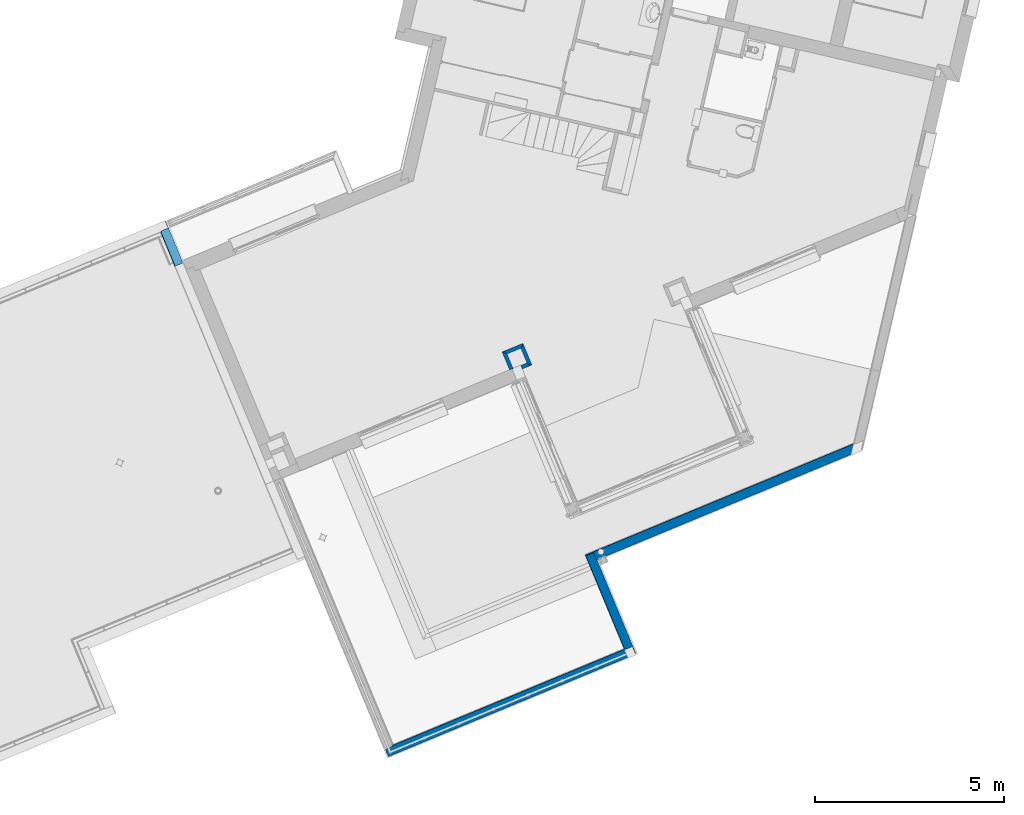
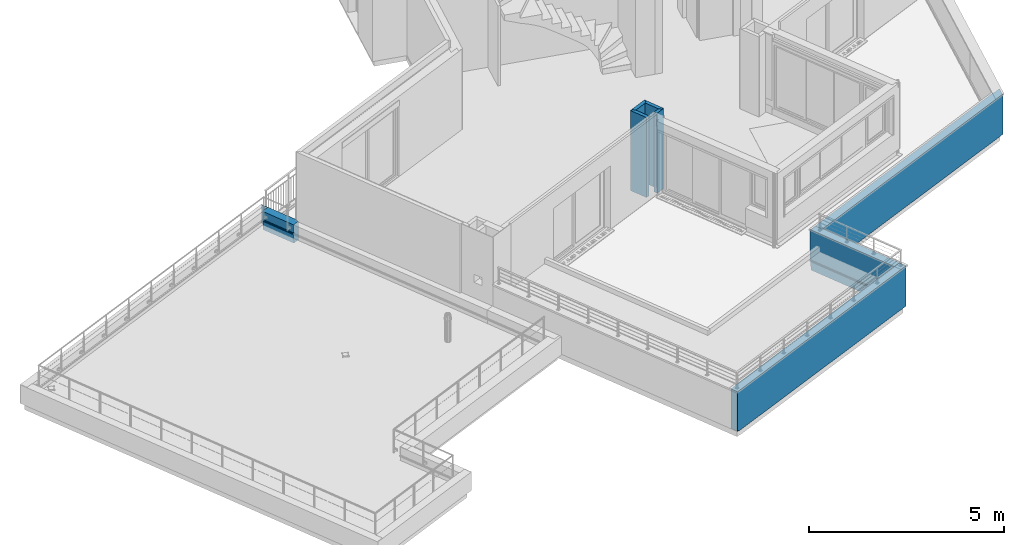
# One storey, part 22 of 62: 8 walls.
"""IFC2X3 building model written with IfcOpenShell, lengths in metres."""

from ifc_helpers import new_model, entity, si_unit, converted_unit, derived_unit, money_unit, direction, frame, origin_with_axes, place, context, subcontext, project, spatial, faceted_brep, material, material_list, type_object, element, save


model = new_model("IFC2X3")

# Units and contexts
model_context = context("Model", 3, precision=1e-05, world=origin_with_axes(), true_north=direction((0.0, 1.0)))
body_context = subcontext(model_context, "Body", "Model", "MODEL_VIEW")
ifc_project = project(units=[si_unit("LENGTHUNIT", "METRE"), si_unit("AREAUNIT", "SQUARE_METRE"), si_unit("VOLUMEUNIT", "CUBIC_METRE"), converted_unit("PLANEANGLEUNIT", "DEGREE", entity("IfcPlaneAngleMeasure", 0.0174532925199), si_unit("PLANEANGLEUNIT", "RADIAN"), dimensions=[0, 0, 0, 0, 0, 0, 0]), si_unit("SOLIDANGLEUNIT", "STERADIAN"), money_unit("EUR"), converted_unit("TIMEUNIT", "Year", entity("IfcTimeMeasure", 31556926.0), si_unit("TIMEUNIT", "SECOND"), dimensions=[0, 0, 1, 0, 0, 0, 0]), si_unit("MASSUNIT", "GRAM", prefix="KILO"), si_unit("THERMODYNAMICTEMPERATUREUNIT", "DEGREE_CELSIUS"), si_unit("LUMINOUSINTENSITYUNIT", "LUMEN"), si_unit("ENERGYUNIT", "JOULE", prefix="MEGA"), derived_unit("THERMALCONDUCTANCEUNIT", [(si_unit("POWERUNIT", "WATT"), 1), (si_unit("LENGTHUNIT", "METRE"), -1), (si_unit("THERMODYNAMICTEMPERATUREUNIT", "KELVIN"), -1)]), derived_unit("SPECIFICHEATCAPACITYUNIT", [(si_unit("ENERGYUNIT", "JOULE"), 1), (si_unit("MASSUNIT", "GRAM", prefix="KILO"), -1), (si_unit("THERMODYNAMICTEMPERATUREUNIT", "KELVIN"), -1)]), derived_unit("MASSDENSITYUNIT", [(si_unit("MASSUNIT", "GRAM", prefix="KILO"), 1), (si_unit("VOLUMEUNIT", "CUBIC_METRE"), -1)])], contexts=[model_context])

# Site, building, storey
site_placement = place(None, origin_with_axes())
site = spatial("IfcSite", under=ifc_project, at=site_placement, Name="Site", CompositionType="ELEMENT")
building_placement = place(site_placement, origin_with_axes())
building = spatial("IfcBuilding", under=site, at=building_placement, Name="Bâtiment", CompositionType="ELEMENT")
storey_placement = place(building_placement, frame((0.0, 0.0, 8.16), z_axis=(0.0, 0.0, 1.0), x_axis=(1.0, 0.0, 0.0)))
storey = spatial("IfcBuildingStorey", under=building, at=storey_placement, Name="R+3", CompositionType="ELEMENT", Elevation=8.16)

# Walls
ifc_material_1 = material(Name="Finition int - Plaque de plâtre")
ifc_material_2 = material(Name="Isolation - Laine de roche")
ifc_material_list_1 = material_list([ifc_material_1, ifc_material_1, ifc_material_2, ifc_material_1, ifc_material_1])
wall_type_1 = type_object("IfcWallType", Name="3 - Cloison Gaine Technique 98mm 100", PredefinedType="USERDEFINED")
wall_1_placement = place(storey_placement, frame((-16.5839521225, -17.3007671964, 0.0), z_axis=(0.0, 0.0, 1.0), x_axis=(0.383112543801, -0.92370167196, 0.0)))
element("IfcWall", 1, at=wall_1_placement, inside=storey, type_object=wall_type_1, material=ifc_material_list_1, Name="Cloison 98 isolée", ObjectType="PARTITIONING", context=body_context, shape_type="Brep", body=[
    faceted_brep([(0.619999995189, -0.013, 2.5), (0.619999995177, 0.0, 2.5), (0.0129999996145, 0.0, 2.5), (0.0129999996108, -0.013, 2.5), (0.619999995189, -0.013, 0.0), (0.619999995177, 0.0, 0.0), (0.0129999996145, 0.0, 0.0), (0.0129999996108, -0.013, 0.0)], [[[0, 1, 2, 3]], [[1, 0, 4, 5]], [[1, 5, 6, 2]], [[7, 3, 2, 6]], [[4, 0, 3, 7]], [[5, 4, 7, 6]]]),
    faceted_brep([(0.606999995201, -0.026, 2.5), (0.606999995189, -0.013, 2.5), (0.0259999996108, -0.013, 2.5), (0.0259999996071, -0.026, 2.5), (0.606999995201, -0.026, 0.0), (0.606999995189, -0.013, 0.0), (0.0259999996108, -0.013, 0.0), (0.0259999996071, -0.026, 0.0)], [[[0, 1, 2, 3]], [[1, 0, 4, 5]], [[1, 5, 6, 2]], [[7, 3, 2, 6]], [[4, 0, 3, 7]], [[5, 4, 7, 6]]]),
    faceted_brep([(0.593999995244, -0.074, 2.5), (0.593999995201, -0.026, 2.5), (0.0739999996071, -0.026, 2.5), (0.0739999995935, -0.074, 2.5), (0.593999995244, -0.074, 0.0), (0.593999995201, -0.026, 0.0), (0.0739999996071, -0.026, 0.0), (0.0739999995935, -0.074, 0.0)], [[[0, 1, 2, 3]], [[1, 0, 4, 5]], [[1, 5, 6, 2]], [[7, 3, 2, 6]], [[4, 0, 3, 7]], [[5, 4, 7, 6]]]),
    faceted_brep([(0.545999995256, -0.087, 2.5), (0.545999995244, -0.074, 2.5), (0.0869999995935, -0.074, 2.5), (0.0869999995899, -0.087, 2.5), (0.545999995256, -0.087, 0.0), (0.545999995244, -0.074, 0.0), (0.0869999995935, -0.074, 0.0), (0.0869999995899, -0.087, 0.0)], [[[0, 1, 2, 3]], [[1, 0, 4, 5]], [[1, 5, 6, 2]], [[7, 3, 2, 6]], [[4, 0, 3, 7]], [[5, 4, 7, 6]]]),
    faceted_brep([(0.532999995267, -0.1, 2.5), (0.532999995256, -0.087, 2.5), (0.0999999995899, -0.087, 2.5), (0.0999999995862, -0.1, 2.5), (0.532999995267, -0.1, 0.0), (0.532999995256, -0.087, 0.0), (0.0999999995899, -0.087, 0.0), (0.0999999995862, -0.1, 0.0)], [[[0, 1, 2, 3]], [[1, 0, 4, 5]], [[1, 5, 6, 2]], [[7, 3, 2, 6]], [[4, 0, 3, 7]], [[5, 4, 7, 6]]]),
])
wall_2_placement = place(storey_placement, frame((-17.1344783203, -17.5291022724, 0.0), z_axis=(0.0, 0.0, 1.0), x_axis=(0.923701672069, 0.38311254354, 0.0)))
element("IfcWall", 2, at=wall_2_placement, inside=storey, type_object=wall_type_1, material=ifc_material_list_1, Name="Cloison 98 isolée", ObjectType="PARTITIONING", context=body_context, shape_type="Brep", body=[
    faceted_brep([(0.596000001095, -0.013, 2.5), (0.596000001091, 0.0, 2.5), (0.013, 0.0, 2.5), (0.0130000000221, -0.013, 2.5), (0.596000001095, -0.013, 0.0), (0.596000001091, 0.0, 0.0), (0.013, 0.0, 0.0), (0.0130000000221, -0.013, 0.0)], [[[0, 1, 2, 3]], [[1, 0, 4, 5]], [[1, 5, 6, 2]], [[7, 3, 2, 6]], [[4, 0, 3, 7]], [[5, 4, 7, 6]]]),
    faceted_brep([(0.583000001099, -0.026, 2.5), (0.583000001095, -0.013, 2.5), (0.0260000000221, -0.013, 2.5), (0.0260000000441, -0.026, 2.5), (0.583000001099, -0.026, 0.0), (0.583000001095, -0.013, 0.0), (0.0260000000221, -0.013, 0.0), (0.0260000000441, -0.026, 0.0)], [[[0, 1, 2, 3]], [[1, 0, 4, 5]], [[1, 5, 6, 2]], [[7, 3, 2, 6]], [[4, 0, 3, 7]], [[5, 4, 7, 6]]]),
    faceted_brep([(0.570000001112, -0.074, 2.5), (0.570000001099, -0.026, 2.5), (0.0740000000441, -0.026, 2.5), (0.0740000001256, -0.074, 2.5), (0.570000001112, -0.074, 0.0), (0.570000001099, -0.026, 0.0), (0.0740000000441, -0.026, 0.0), (0.0740000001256, -0.074, 0.0)], [[[0, 1, 2, 3]], [[1, 0, 4, 5]], [[1, 5, 6, 2]], [[7, 3, 2, 6]], [[4, 0, 3, 7]], [[5, 4, 7, 6]]]),
    faceted_brep([(0.522000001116, -0.087, 2.5), (0.522000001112, -0.074, 2.5), (0.0870000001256, -0.074, 2.5), (0.0870000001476, -0.087, 2.5), (0.522000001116, -0.087, 0.0), (0.522000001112, -0.074, 0.0), (0.0870000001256, -0.074, 0.0), (0.0870000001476, -0.087, 0.0)], [[[0, 1, 2, 3]], [[1, 0, 4, 5]], [[1, 5, 6, 2]], [[7, 3, 2, 6]], [[4, 0, 3, 7]], [[5, 4, 7, 6]]]),
    faceted_brep([(0.50900000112, -0.1, 2.5), (0.509000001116, -0.087, 2.5), (0.100000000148, -0.087, 2.5), (0.10000000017, -0.1, 2.5), (0.50900000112, -0.1, 0.0), (0.509000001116, -0.087, 0.0), (0.100000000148, -0.087, 0.0), (0.10000000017, -0.1, 0.0)], [[[0, 1, 2, 3]], [[1, 0, 4, 5]], [[1, 5, 6, 2]], [[7, 3, 2, 6]], [[4, 0, 3, 7]], [[5, 4, 7, 6]]]),
])
wall_3_placement = place(storey_placement, frame((-16.9352597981, -18.0094271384, 0.0), z_axis=(0.0, 0.0, 1.0), x_axis=(-0.383112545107, 0.923701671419, 0.0)))
element("IfcWall", 3, at=wall_3_placement, inside=storey, type_object=wall_type_1, material=ifc_material_list_1, Name="Cloison 98 isolée", ObjectType="PARTITIONING", context=body_context, shape_type="Brep", body=[
    faceted_brep([(0.519999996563, -0.013, 2.5), (0.519999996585, 0.0, 2.5), (0.0, 0.0, 2.5), (0.0, -0.013, 2.5), (0.519999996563, -0.013, 0.0), (0.519999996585, 0.0, 0.0), (0.0, 0.0, 0.0), (0.0, -0.013, 0.0)], [[[0, 1, 2, 3]], [[1, 0, 4, 5]], [[1, 5, 6, 2]], [[7, 3, 2, 6]], [[4, 0, 3, 7]], [[5, 4, 7, 6]]]),
    faceted_brep([(0.506999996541, -0.026, 2.5), (0.506999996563, -0.013, 2.5), (0.0, -0.013, 2.5), (0.0, -0.026, 2.5), (0.506999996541, -0.026, 0.0), (0.506999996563, -0.013, 0.0), (0.0, -0.013, 0.0), (0.0, -0.026, 0.0)], [[[0, 1, 2, 3]], [[1, 0, 4, 5]], [[1, 5, 6, 2]], [[7, 3, 2, 6]], [[4, 0, 3, 7]], [[5, 4, 7, 6]]]),
    faceted_brep([(0.493999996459, -0.074, 2.5), (0.493999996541, -0.026, 2.5), (0.0, -0.026, 2.5), (0.0, -0.074, 2.5), (0.493999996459, -0.074, 0.0), (0.493999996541, -0.026, 0.0), (0.0, -0.026, 0.0), (0.0, -0.074, 0.0)], [[[0, 1, 2, 3]], [[1, 0, 4, 5]], [[1, 5, 6, 2]], [[7, 3, 2, 6]], [[4, 0, 3, 7]], [[5, 4, 7, 6]]]),
    faceted_brep([(0.445999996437, -0.087, 2.5), (0.445999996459, -0.074, 2.5), (0.0, -0.074, 2.5), (0.0, -0.087, 2.5), (0.445999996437, -0.087, 0.0), (0.445999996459, -0.074, 0.0), (0.0, -0.074, 0.0), (0.0, -0.087, 0.0)], [[[0, 1, 2, 3]], [[1, 0, 4, 5]], [[1, 5, 6, 2]], [[7, 3, 2, 6]], [[4, 0, 3, 7]], [[5, 4, 7, 6]]]),
    faceted_brep([(0.432999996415, -0.1, 2.5), (0.432999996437, -0.087, 2.5), (0.0, -0.087, 2.5), (0.0, -0.1, 2.5), (0.432999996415, -0.1, 0.0), (0.432999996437, -0.087, 0.0), (0.0, -0.087, 0.0), (0.0, -0.1, 0.0)], [[[0, 1, 2, 3]], [[1, 0, 4, 5]], [[1, 5, 6, 2]], [[7, 3, 2, 6]], [[4, 0, 3, 7]], [[5, 4, 7, 6]]]),
])
wall_4_placement = place(storey_placement, frame((-16.638894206, -17.8865071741, 0.0), z_axis=(0.0, 0.0, 1.0), x_axis=(0.923701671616, 0.383112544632, 0.0)))
element("IfcWall", 4, at=wall_4_placement, inside=storey, type_object=wall_type_1, material=ifc_material_list_1, Name="Cloison 98 isolée", ObjectType="PARTITIONING", context=body_context, shape_type="Brep", body=[
    faceted_brep([(0.175154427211, -0.013, 2.5), (0.175154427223, 0.0, 2.5), (0.0, 0.0, 2.5), (0.0, -0.013, 2.5), (0.175154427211, -0.013, 0.0), (0.175154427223, 0.0, 0.0), (0.0, 0.0, 0.0), (0.0, -0.013, 0.0)], [[[0, 1, 2, 3]], [[1, 0, 4, 5]], [[1, 5, 6, 2]], [[7, 3, 2, 6]], [[4, 0, 3, 7]], [[5, 4, 7, 6]]]),
    faceted_brep([(0.1881544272, -0.026, 2.5), (0.188154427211, -0.013, 2.5), (0.0, -0.013, 2.5), (0.0, -0.026, 2.5), (0.1881544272, -0.026, 0.0), (0.188154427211, -0.013, 0.0), (0.0, -0.013, 0.0), (0.0, -0.026, 0.0)], [[[0, 1, 2, 3]], [[1, 0, 4, 5]], [[1, 5, 6, 2]], [[7, 3, 2, 6]], [[4, 0, 3, 7]], [[5, 4, 7, 6]]]),
    faceted_brep([(0.201154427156, -0.074, 2.5), (0.2011544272, -0.026, 2.5), (0.0, -0.026, 2.5), (0.0, -0.074, 2.5), (0.201154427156, -0.074, 0.0), (0.2011544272, -0.026, 0.0), (0.0, -0.026, 0.0), (0.0, -0.074, 0.0)], [[[0, 1, 2, 3]], [[1, 0, 4, 5]], [[1, 5, 6, 2]], [[7, 3, 2, 6]], [[4, 0, 3, 7]], [[5, 4, 7, 6]]]),
    faceted_brep([(0.249154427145, -0.087, 2.5), (0.249154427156, -0.074, 2.5), (0.0, -0.074, 2.5), (0.0, -0.087, 2.5), (0.249154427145, -0.087, 0.0), (0.249154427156, -0.074, 0.0), (0.0, -0.074, 0.0), (0.0, -0.087, 0.0)], [[[0, 1, 2, 3]], [[1, 0, 4, 5]], [[1, 5, 6, 2]], [[7, 3, 2, 6]], [[4, 0, 3, 7]], [[5, 4, 7, 6]]]),
    faceted_brep([(0.262154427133, -0.1, 2.5), (0.262154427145, -0.087, 2.5), (0.0, -0.087, 2.5), (0.0, -0.1, 2.5), (0.262154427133, -0.1, 0.0), (0.262154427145, -0.087, 0.0), (0.0, -0.087, 0.0), (0.0, -0.1, 0.0)], [[[0, 1, 2, 3]], [[1, 0, 4, 5]], [[1, 5, 6, 2]], [[7, 3, 2, 6]], [[4, 0, 3, 7]], [[5, 4, 7, 6]]]),
])
ifc_material_3 = material(Name="Finition ext - Crépis")
ifc_material_4 = material(Name="Béton")
ifc_material_5 = material(Name="Etanchéité - Bitume")
ifc_material_6 = material(Name="Métal - Aluminium")
ifc_material_list_2 = material_list([ifc_material_3, ifc_material_4, ifc_material_5, ifc_material_3, ifc_material_6])
wall_type_2 = type_object("IfcWallType", Name="Acrotère pour plancher 21 isolée 242 x 580", PredefinedType="USERDEFINED")
wall_5_placement = place(storey_placement, frame((-26.0315154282, -14.0526858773, 0.0), z_axis=(0.0, 0.0, 1.0), x_axis=(0.383112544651, -0.923701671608, 0.0)))
element("IfcWall", 5, at=wall_5_placement, inside=storey, type_object=wall_type_2, material=ifc_material_list_2, Name="Muret béton 20cm", ObjectType="PARAPET", context=body_context, shape_type="Brep", body=[
    faceted_brep([(0.01499999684, 0.0, 0.580000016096), (1.15000002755, 0.0, 0.580000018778), (1.15000002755, 0.0, 0.0), (0.01499999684, 0.0, 0.0), (0.0149999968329, -0.0149999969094, 0.580000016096), (1.15000002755, -0.0149999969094, 0.580000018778), (1.15000002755, -0.0149999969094, 0.0), (0.0149999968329, -0.0149999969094, 0.0)], [[[0, 1, 2, 3]], [[1, 0, 4, 5]], [[2, 1, 5, 6]], [[6, 7, 3, 2]], [[7, 4, 0, 3]], [[5, 4, 7, 6]]]),
    faceted_brep([(0.215000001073, -0.015, 0.580000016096), (1.21500002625, -0.015, 0.580000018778), (1.21500002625, -0.015, 0.0), (0.215000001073, -0.015, 0.0), (0.215000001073, -0.015, 0.0999999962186), (0.215000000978, -0.215000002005, 0.580000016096), (1.21500002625, -0.215000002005, 0.580000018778), (1.21500002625, -0.215000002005, 0.0999999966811), (1.21500002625, -0.215000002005, 0.0), (1.21500002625, -0.215000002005, 0.318976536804), (1.21500002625, -0.215000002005, 0.309999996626), (0.215000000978, -0.215000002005, 0.0), (0.215000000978, -0.215000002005, 0.0999999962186), (0.215000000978, -0.215000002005, 0.310000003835), (0.215000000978, -0.215000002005, 0.318976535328)], [[[0, 1, 2, 3, 4]], [[1, 0, 5, 6]], [[7, 8, 2, 1, 6, 9, 10]], [[8, 11, 3, 2]], [[11, 12, 4, 3]], [[12, 13, 14, 5, 0, 4]], [[6, 5, 14, 9]], [[7, 12, 11, 8]], [[9, 14, 13, 10]], [[10, 13, 12, 7]]]),
    faceted_brep([(1.21500002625, -0.224999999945, 0.11), (1.21500002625, -0.214999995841, 0.11), (1.21500002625, -0.215000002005, 0.309999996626), (1.21500002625, -0.224999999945, 0.309999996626), (0.224999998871, -0.214999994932, 0.11), (0.224999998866, -0.224999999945, 0.11), (0.224999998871, -0.215000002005, 0.310000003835), (0.224999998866, -0.224999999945, 0.310000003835)], [[[0, 1, 2, 3]], [[4, 1, 0, 5]], [[1, 4, 6, 2]], [[2, 6, 7, 3]], [[5, 0, 3, 7]], [[4, 5, 7, 6]]]),
    faceted_brep([(0.229999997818, -0.215000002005, 0.357041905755), (0.229999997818, -0.215000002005, 0.580000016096), (1.21500002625, -0.215000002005, 0.580000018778), (1.21500002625, -0.215000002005, 0.357041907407), (0.229999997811, -0.229999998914, 0.580000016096), (0.229999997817, -0.216045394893, 0.357041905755), (0.229999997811, -0.229999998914, 0.357041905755), (1.21500002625, -0.229999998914, 0.580000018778), (1.21500002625, -0.229999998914, 0.357041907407), (1.21500002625, -0.216045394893, 0.357041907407)], [[[0, 1, 2, 3]], [[4, 1, 0, 5, 6]], [[1, 4, 7, 2]], [[3, 2, 7, 8, 9]], [[5, 0, 3, 9]], [[6, 5, 9, 8]], [[4, 6, 8, 7]]]),
    faceted_brep([(0.219574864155, -0.21957486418, 0.318976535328), (0.219574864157, -0.215, 0.318976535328), (0.242484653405, -0.237655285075, 0.312179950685), (0.242484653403, -0.242484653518, 0.312179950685), (0.216045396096, -0.215, 0.320023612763), (0.216045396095, -0.216045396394, 0.320023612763), (0.242484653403, -0.241250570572, 0.311101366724), (1.21500002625, -0.215, 0.318976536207), (1.21500002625, -0.241250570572, 0.311101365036), (0.242484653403, -0.241250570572, 0.310000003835), (0.242484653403, -0.242484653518, 0.310000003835), (1.21500002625, -0.242484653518, 0.312179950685), (1.21500002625, -0.216045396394, 0.320023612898), (0.216045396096, -0.215, 0.357041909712), (1.21500002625, -0.215, 0.357041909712), (0.216045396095, -0.216045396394, 0.357041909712), (1.21500002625, -0.216045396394, 0.357041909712), (1.21500002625, -0.242484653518, 0.282882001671), (1.21500002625, -0.241250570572, 0.282882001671), (0.242484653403, -0.241250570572, 0.282882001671), (0.242484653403, -0.242484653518, 0.282882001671)], [[[0, 1, 2, 3]], [[4, 1, 0, 5]], [[6, 2, 1, 7, 8]], [[2, 6, 9, 10, 3]], [[5, 0, 3, 11, 12]], [[4, 13, 14, 7, 1]], [[15, 13, 4, 5]], [[16, 12, 11, 17, 18, 8, 7, 14]], [[9, 6, 8, 18, 19]], [[10, 9, 19, 20]], [[3, 10, 20, 17, 11]], [[15, 5, 12, 16]], [[13, 15, 16, 14]], [[20, 19, 18, 17]]]),
])
wall_type_3 = type_object("IfcWallType", Name="Acrotère pour plancher 23 isolée 242 x 1260", PredefinedType="USERDEFINED")
wall_6_placement = place(storey_placement, frame((-14.6264330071, -23.0257640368, 0.0), z_axis=(0.0, 0.0, 1.0), x_axis=(0.383112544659, -0.923701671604, 0.0)))
element("IfcWall", 6, at=wall_6_placement, inside=storey, type_object=wall_type_3, material=ifc_material_list_2, Name="Muret béton 20cm", ObjectType="PARAPET", context=body_context, shape_type="Brep", body=[
    faceted_brep([(-0.015, 0.0, 0.318976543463), (-0.015, 0.0, 0.357041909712), (-0.015, 0.0, 1.26000604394), (2.67876150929, 1.04930464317e-09, 1.26000604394), (2.67876150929, 1.04930109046e-09, 0.357041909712), (2.67876150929, 1.04930109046e-09, 0.318976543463), (2.67876150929, 1.04930109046e-09, 0.30999999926), (2.67876150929, 1.04930109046e-09, 0.282882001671), (2.67876150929, 1.04930109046e-09, 0.100000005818), (2.67876150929, 1.04930464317e-09, 0.0), (-0.015, 0.0, 0.0), (-0.015, 0.0, 0.100000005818), (-0.015, 0.0, 0.282882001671), (-0.015, 0.0, 0.30999999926), (-0.0149999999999, -0.0149999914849, 0.318976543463), (-0.0149999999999, -0.0149999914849, 0.357041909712), (-0.0149999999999, -0.0149999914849, 1.26000604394), (2.67876150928, -0.0149999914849, 1.26000604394), (2.67876150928, -0.0149999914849, 0.357041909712), (2.67876150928, -0.0149999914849, 0.318976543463), (2.67876150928, -0.0149999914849, 0.30999999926), (2.67876150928, -0.0149999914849, 0.282882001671), (2.67876150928, -0.0149999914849, 0.100000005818), (2.67876150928, -0.0149999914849, 0.0), (-0.0149999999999, -0.0149999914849, 0.0), (-0.0149999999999, -0.0149999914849, 0.100000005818), (-0.0149999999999, -0.0149999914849, 0.282882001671), (-0.0149999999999, -0.0149999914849, 0.30999999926)], [[[0, 1, 2, 3, 4, 5, 6, 7, 8, 9, 10, 11, 12, 13]], [[14, 15, 1, 0]], [[15, 16, 2, 1]], [[3, 2, 16, 17]], [[18, 4, 3, 17]], [[5, 4, 18, 19]], [[6, 5, 19, 20]], [[7, 6, 20, 21]], [[8, 7, 21, 22]], [[9, 8, 22, 23]], [[23, 24, 10, 9]], [[24, 25, 11, 10]], [[25, 26, 12, 11]], [[26, 27, 13, 12]], [[27, 14, 0, 13]], [[17, 16, 15, 14, 27, 26, 25, 24, 23, 22, 21, 20, 19, 18]]]),
    faceted_brep([(-0.215, -0.015, 0.318976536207), (-0.21499999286, -0.015, 0.357041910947), (-0.21499999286, -0.015, 1.26000604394), (2.47876150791, -0.015, 1.26000604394), (2.47876150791, -0.015, 0.357041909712), (2.47876150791, -0.015, 0.318976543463), (2.47876150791, -0.015, 0.30999999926), (2.47876150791, -0.015, 0.282882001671), (2.47876150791, -0.015, 0.100000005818), (2.47876150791, -0.015, 0.0), (-0.214999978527, -0.015, 0.0), (-0.21499999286, -0.015, 0.100000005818), (-0.21499999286, -0.015, 0.282882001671), (-0.214999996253, -0.015, 0.30999999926), (-0.214999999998, -0.21499999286, 0.318976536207), (-0.214999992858, -0.21499999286, 0.357041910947), (-0.214999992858, -0.21499999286, 1.26000604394), (2.47876150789, -0.21499999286, 1.26000604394), (2.47876150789, -0.21499999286, 0.357041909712), (2.47876150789, -0.21499999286, 0.318976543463), (2.47876150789, -0.21499999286, 0.30999999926), (2.47876150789, -0.21499999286, 0.282882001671), (2.47876150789, -0.21499999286, 0.100000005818), (2.47876150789, -0.21499999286, 0.0), (-0.214999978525, -0.21499999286, 0.0), (-0.214999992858, -0.21499999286, 0.100000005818), (-0.214999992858, -0.21499999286, 0.282882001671), (-0.214999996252, -0.21499999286, 0.30999999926)], [[[0, 1, 2, 3, 4, 5, 6, 7, 8, 9, 10, 11, 12, 13]], [[14, 15, 1, 0]], [[15, 16, 2, 1]], [[3, 2, 16, 17]], [[18, 4, 3, 17]], [[5, 4, 18, 19]], [[6, 5, 19, 20]], [[7, 6, 20, 21]], [[8, 7, 21, 22]], [[9, 8, 22, 23]], [[10, 9, 23, 24]], [[24, 25, 11, 10]], [[25, 26, 12, 11]], [[26, 27, 13, 12]], [[27, 14, 0, 13]], [[17, 16, 15, 14, 19, 18]], [[19, 14, 27, 20]], [[20, 27, 26, 25, 22, 21]], [[24, 23, 22, 25]]]),
    faceted_brep([(2.46876150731, -0.224999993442, 0.150000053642), (2.46876150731, -0.214999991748, 0.150000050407), (2.46876150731, -0.21499999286, 0.282882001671), (2.46876150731, -0.224999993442, 0.282882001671), (0.585000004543, -0.215000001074, 0.150000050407), (0.585000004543, -0.224999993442, 0.150000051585), (0.585000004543, -0.215000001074, 0.110000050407), (-0.214999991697, -0.214999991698, 0.11), (-0.224999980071, -0.21499999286, 0.11), (-0.224999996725, -0.21499999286, 0.282882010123), (-0.224999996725, -0.21499999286, 0.30999999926), (2.46876150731, -0.21499999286, 0.30999999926), (2.46876150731, -0.224999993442, 0.30999999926), (-0.224999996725, -0.224999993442, 0.30999999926), (-0.224999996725, -0.224999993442, 0.282882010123), (-0.224999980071, -0.224999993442, 0.11), (0.585000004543, -0.224999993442, 0.110000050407)], [[[0, 1, 2, 3]], [[4, 1, 0, 5]], [[4, 6, 7, 8, 9, 10, 11, 2, 1]], [[3, 2, 11, 12]], [[5, 0, 3, 12, 13, 14, 15, 16]], [[6, 4, 5, 16]], [[6, 16, 15, 8, 7]], [[8, 15, 14, 9]], [[14, 13, 10, 9]], [[11, 10, 13, 12]]]),
    faceted_brep([(2.46376149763, -0.230000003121, 1.26000604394), (2.46376149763, -0.21499999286, 1.26000604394), (-0.229999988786, -0.21499999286, 1.26000604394), (-0.229999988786, -0.230000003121, 1.26000604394), (2.46376149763, -0.21499999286, 0.357041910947), (2.46376149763, -0.230000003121, 0.357041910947), (2.46376149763, -0.216045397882, 0.357041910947), (-0.229999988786, -0.21499999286, 0.357041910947), (-0.229999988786, -0.230000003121, 0.357041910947), (-0.229999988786, -0.216045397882, 0.357041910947)], [[[0, 1, 2, 3]], [[4, 1, 0, 5, 6]], [[1, 4, 7, 2]], [[8, 3, 2, 7, 9]], [[5, 0, 3, 8]], [[6, 5, 8, 9]], [[4, 6, 9, 7]]]),
    faceted_brep([(2.47771610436, -0.216045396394, 0.357041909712), (2.47771610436, -0.215, 0.357041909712), (-0.216045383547, -0.215, 0.357041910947), (-0.216045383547, -0.216045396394, 0.357041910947), (2.47771610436, -0.215, 0.320023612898), (2.47771610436, -0.216045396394, 0.320023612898), (2.47418666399, -0.215, 0.318976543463), (-0.2195748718, -0.215, 0.318976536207), (-0.216045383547, -0.215, 0.32002361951), (-0.216045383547, -0.216045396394, 0.32002361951), (2.47418666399, -0.219574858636, 0.318976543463), (2.45127684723, -0.237655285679, 0.312179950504), (2.45127684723, -0.241250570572, 0.311101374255), (-0.242484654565, -0.241250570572, 0.311101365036), (-0.242484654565, -0.237655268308, 0.312179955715), (-0.242484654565, -0.242484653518, 0.312179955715), (2.45127684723, -0.242484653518, 0.312179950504), (2.45127684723, -0.242484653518, 0.30999999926), (2.45127684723, -0.241250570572, 0.30999999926), (2.45127684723, -0.241250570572, 0.282882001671), (-0.242484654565, -0.241250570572, 0.282882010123), (-0.242484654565, -0.242484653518, 0.282882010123), (2.45127684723, -0.242484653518, 0.282882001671)], [[[0, 1, 2, 3]], [[4, 1, 0, 5]], [[4, 6, 7, 8, 2, 1]], [[9, 3, 2, 8]], [[5, 0, 3, 9]], [[6, 4, 5, 10]], [[11, 12, 13, 14, 7, 6]], [[9, 8, 7, 14, 15]], [[10, 5, 9, 15, 16]], [[6, 10, 16, 11]], [[12, 11, 16, 17, 18]], [[12, 18, 19, 20, 13]], [[15, 14, 13, 20, 21]], [[17, 16, 15, 21, 22]], [[18, 17, 22, 19]], [[19, 22, 21, 20]]]),
])
ifc_material_list_3 = material_list([ifc_material_6, ifc_material_3, ifc_material_5, ifc_material_4, ifc_material_3])
wall_7_placement = place(storey_placement, frame((-14.6264330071, -23.0257640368, 0.0), z_axis=(0.0, 0.0, 1.0), x_axis=(0.923701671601, 0.383112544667, 0.0)))
element("IfcWall", 7, at=wall_7_placement, inside=storey, type_object=wall_type_3, material=ifc_material_list_3, Name="Muret béton 20cm", ObjectType="PARAPET", context=body_context, shape_type="Brep", body=[
    faceted_brep([(7.46931825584, 0.216045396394, 0.320023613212), (7.47183786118, 0.21957485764, 0.318976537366), (7.46035688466, 0.242484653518, 0.312179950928), (-0.237655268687, 0.242484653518, 0.312179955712), (-0.214999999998, 0.219574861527, 0.318976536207), (-0.214999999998, 0.216045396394, 0.320023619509), (7.46857197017, 0.215, 0.318976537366), (7.46931825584, 0.216045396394, 0.357041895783), (7.46857197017, 0.215, 0.357041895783), (7.45505846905, 0.241250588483, 0.311101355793), (7.45593944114, 0.242484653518, 0.311101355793), (-0.241250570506, 0.242484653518, 0.311101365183), (7.45593944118, 0.242484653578, 0.310000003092), (7.45593944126, 0.242484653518, 0.282882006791), (-0.24125057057, 0.242484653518, 0.282882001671), (-0.241250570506, 0.242484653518, 0.30999999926), (-0.241250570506, 0.241250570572, 0.311101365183), (-0.214999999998, 0.215, 0.318976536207), (-0.214999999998, 0.215, 0.357041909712), (-0.214999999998, 0.216045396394, 0.357041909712), (7.4550584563, 0.241250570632, 0.310000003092), (7.45505845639, 0.241250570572, 0.282882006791), (-0.24125057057, 0.241250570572, 0.282882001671), (-0.241250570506, 0.241250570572, 0.30999999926)], [[[0, 1, 2, 3, 4, 5]], [[6, 1, 0, 7, 8]], [[1, 6, 9, 10, 2]], [[11, 3, 2, 10, 12, 13, 14, 15]], [[11, 16, 17, 4, 3]], [[5, 4, 17, 18, 19]], [[7, 0, 5, 19]], [[8, 7, 19, 18]], [[6, 8, 18, 17]], [[6, 17, 16, 9]], [[10, 9, 20, 12]], [[20, 21, 13, 12]], [[21, 22, 14, 13]], [[14, 22, 23, 15]], [[11, 15, 23, 16]], [[23, 22, 21, 20, 9, 16]]]),
    faceted_brep([(7.46857196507, 0.21499999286, 1.26000201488), (7.47928014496, 0.230000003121, 1.26000201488), (-0.214999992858, 0.230000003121, 1.26000604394), (-0.214999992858, 0.21499999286, 1.26000604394), (7.47928014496, 0.230000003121, 0.357041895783), (7.46857196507, 0.21499999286, 0.357041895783), (7.4693182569, 0.216045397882, 0.357041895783), (-0.214999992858, 0.230000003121, 0.357041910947), (-0.214999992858, 0.21499999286, 0.357041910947), (-0.214999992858, 0.216045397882, 0.357041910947)], [[[0, 1, 2, 3]], [[4, 1, 0, 5, 6]], [[1, 4, 7, 2]], [[8, 3, 2, 7, 9]], [[5, 0, 3, 8]], [[6, 5, 8, 9]], [[4, 6, 9, 7]]]),
    faceted_brep([(7.46857196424, 0.214999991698, 0.11), (7.4757107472, 0.224999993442, 0.11), (7.4757107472, 0.224999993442, 0.282882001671), (7.46857196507, 0.21499999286, 0.282882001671), (-0.214999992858, 0.224999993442, 0.11), (-0.214999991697, 0.214999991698, 0.11), (-0.214999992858, 0.224999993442, 0.282882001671), (-0.214999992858, 0.224999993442, 0.30999999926), (7.4757107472, 0.224999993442, 0.310000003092), (7.46857196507, 0.21499999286, 0.310000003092), (-0.214999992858, 0.21499999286, 0.30999999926), (-0.214999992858, 0.21499999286, 0.282882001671)], [[[0, 1, 2, 3]], [[4, 1, 0, 5]], [[1, 4, 6, 7, 8, 2]], [[3, 2, 8, 9]], [[5, 0, 3, 9, 10, 11]], [[4, 5, 11, 6]], [[6, 11, 10, 7]], [[10, 9, 8, 7]]]),
    faceted_brep([(-0.0149999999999, 0.015, 1.26000604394), (7.57152968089, 0.015, 1.26000201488), (7.71430530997, 0.21499999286, 1.26000201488), (-0.0149999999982, 0.21499999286, 1.26000604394), (7.57152968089, 0.015, 0.318976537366), (7.57152968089, 0.015, 0.357041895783), (-0.0149999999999, 0.015, 0.357041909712), (-0.0149999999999, 0.015, 0.318976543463), (-0.0149999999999, 0.015, 0.30999999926), (-0.0149999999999, 0.015, 0.282882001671), (-0.0149999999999, 0.015, 0.100000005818), (-0.0149999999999, 0.015, 0.0), (7.57152968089, 0.015, 0.0), (7.57152968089, 0.015, 0.100000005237), (7.57152968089, 0.015, 0.282882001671), (7.57152968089, 0.015, 0.310000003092), (7.71430530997, 0.21499999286, 0.357041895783), (7.71430530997, 0.21499999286, 0.318976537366), (-0.0149999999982, 0.21499999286, 0.318976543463), (-0.0149999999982, 0.21499999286, 0.357041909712), (-0.0149999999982, 0.21499999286, 0.30999999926), (-0.0149999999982, 0.21499999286, 0.282882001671), (-0.0149999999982, 0.21499999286, 0.100000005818), (-0.0149999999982, 0.21499999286, 0.0), (7.71430530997, 0.21499999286, 0.0), (7.71430530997, 0.21499999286, 0.100000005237), (7.71430530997, 0.21499999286, 0.282882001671), (7.71430530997, 0.21499999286, 0.310000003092)], [[[0, 1, 2, 3]], [[4, 5, 1, 0, 6, 7, 8, 9, 10, 11, 12, 13, 14, 15]], [[5, 16, 2, 1]], [[3, 2, 16, 17, 18, 19]], [[3, 19, 6, 0]], [[17, 16, 5, 4]], [[18, 7, 6, 19]], [[8, 7, 18, 20]], [[8, 20, 21, 9]], [[9, 21, 22, 10]], [[11, 10, 22, 23]], [[12, 11, 23, 24]], [[25, 13, 12, 24]], [[14, 13, 25, 26]], [[15, 14, 26, 27]], [[17, 4, 15, 27]], [[27, 20, 18, 17]], [[26, 25, 22, 21, 20, 27]], [[24, 23, 22, 25]]]),
    faceted_brep([(7.58995967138, 0.0149999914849, 1.26000201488), (0.0, 0.0149999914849, 1.26000604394), (0.0, 0.0, 1.26000604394), (7.5792515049, 0.0, 1.26000201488), (0.0, 0.0149999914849, 0.318976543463), (0.0, 0.0149999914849, 0.357041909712), (7.58995967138, 0.0149999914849, 0.0), (0.0, 0.0149999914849, 0.0), (0.0, 0.0149999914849, 0.100000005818), (0.0, 0.0149999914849, 0.282882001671), (0.0, 0.0149999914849, 0.30999999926), (0.0, 0.0, 0.357041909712), (0.0, 0.0, 0.318976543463), (0.0, 0.0, 0.30999999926), (0.0, 0.0, 0.282882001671), (0.0, 0.0, 0.100000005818), (0.0, 0.0, 0.0), (7.5792515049, 0.0, 0.0)], [[[0, 1, 2, 3]], [[4, 5, 1, 0, 6, 7, 8, 9, 10]], [[5, 11, 2, 1]], [[3, 2, 11, 12, 13, 14, 15, 16, 17]], [[3, 17, 6, 0]], [[12, 11, 5, 4]], [[17, 16, 7, 6]], [[16, 15, 8, 7]], [[15, 14, 9, 8]], [[14, 13, 10, 9]], [[13, 12, 4, 10]]]),
])
wall_8_placement = place(storey_placement, frame((-20.1547284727, -28.234935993, 0.0), z_axis=(0.0, 0.0, 1.0), x_axis=(0.923701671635, 0.383112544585, 0.0)))
element("IfcWall", 8, at=wall_8_placement, inside=storey, type_object=wall_type_3, material=ifc_material_list_3, Name="Muret béton 20cm", ObjectType="PARAPET", context=body_context, shape_type="Brep", body=[
    faceted_brep([(0.214999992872, 0.216045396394, 0.357041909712), (0.214999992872, 0.215, 0.357041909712), (6.88719489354, 0.215, 0.357041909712), (6.88719489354, 0.216045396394, 0.357041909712), (0.214999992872, 0.215, 0.318976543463), (0.214999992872, 0.216045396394, 0.320023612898), (0.214999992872, 0.219574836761, 0.318976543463), (6.88719489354, 0.215, 0.318976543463), (6.88719489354, 0.219574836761, 0.318976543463), (6.88719489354, 0.216045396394, 0.320023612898), (6.86453956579, 0.242484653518, 0.312179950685), (0.237655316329, 0.242484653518, 0.312179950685), (0.241250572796, 0.242484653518, 0.311101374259), (0.241250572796, 0.241250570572, 0.311101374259), (6.86094430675, 0.241250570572, 0.311101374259), (6.86094430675, 0.242484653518, 0.311101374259), (6.86094430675, 0.242484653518, 0.30999999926), (6.86094430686, 0.242484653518, 0.282882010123), (0.241250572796, 0.242484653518, 0.282882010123), (0.241250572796, 0.242484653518, 0.30999999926), (0.241250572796, 0.241250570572, 0.30999999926), (0.241250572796, 0.241250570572, 0.282882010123), (6.86094430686, 0.241250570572, 0.282882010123), (6.86094430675, 0.241250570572, 0.30999999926)], [[[0, 1, 2, 3]], [[4, 1, 0, 5, 6]], [[1, 4, 7, 2]], [[3, 2, 7, 8, 9]], [[5, 0, 3, 9]], [[6, 5, 9, 8, 10, 11]], [[4, 6, 11, 12, 13]], [[4, 13, 14, 7]], [[8, 7, 14, 15, 10]], [[12, 11, 10, 15, 16, 17, 18, 19]], [[20, 13, 12, 19]], [[13, 20, 21, 22, 23, 14]], [[14, 23, 16, 15]], [[16, 23, 22, 17]], [[21, 18, 17, 22]], [[20, 19, 18, 21]]]),
    faceted_brep([(0.214999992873, 0.230000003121, 1.26000604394), (0.214999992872, 0.21499999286, 1.26000604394), (6.88719489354, 0.21499999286, 1.26000604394), (6.88719489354, 0.230000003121, 1.26000604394), (0.214999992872, 0.21499999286, 0.357041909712), (0.214999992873, 0.230000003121, 0.357041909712), (0.214999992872, 0.216045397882, 0.357041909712), (6.88719489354, 0.21499999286, 0.357041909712), (6.88719489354, 0.216045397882, 0.357041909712), (6.88719489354, 0.230000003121, 0.357041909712)], [[[0, 1, 2, 3]], [[4, 1, 0, 5, 6]], [[1, 4, 7, 2]], [[3, 2, 7, 8, 9]], [[5, 0, 3, 9]], [[6, 5, 9, 8]], [[4, 6, 8, 7]]]),
    faceted_brep([(0.21499999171, 0.214999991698, 0.150000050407), (6.8871948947, 0.214999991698, 0.150000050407), (6.88719489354, 0.21499999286, 0.30999999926), (0.214999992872, 0.21499999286, 0.30999999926), (6.88719489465, 0.224999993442, 0.150000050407), (0.214999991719, 0.224999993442, 0.150000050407), (6.88719489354, 0.224999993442, 0.30999999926), (0.214999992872, 0.224999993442, 0.30999999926)], [[[0, 1, 2, 3]], [[4, 1, 0, 5]], [[1, 4, 6, 2]], [[6, 7, 3, 2]], [[5, 0, 3, 7]], [[4, 5, 7, 6]]]),
    faceted_brep([(7.08719489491, 0.21499999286, 1.26000604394), (0.0149999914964, 0.21499999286, 1.26000604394), (0.0149999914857, 0.015, 1.26000604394), (7.08719489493, 0.015, 1.26000604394), (0.0149999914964, 0.21499999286, 0.318976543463), (7.08719489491, 0.21499999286, 0.318976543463), (0.0149999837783, 0.015, 0.0199999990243), (0.0149999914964, 0.21499999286, 0.30999999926), (0.0149999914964, 0.21499999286, 0.100000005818), (0.0149999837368, 0.21499999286, 0.0199999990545), (0.0629999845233, 0.015, 0.0199999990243), (0.0629999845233, 0.015, 0.0), (7.08719489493, 0.015, 0.0), (7.08719489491, 0.21499999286, 0.0), (7.08719489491, 0.21499999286, 0.100000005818), (7.08719489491, 0.21499999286, 0.30999999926), (0.0629999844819, 0.21499999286, 0.0), (0.0629999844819, 0.21499999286, 0.0199999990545)], [[[0, 1, 2, 3]], [[4, 1, 0, 5]], [[6, 2, 1, 4, 7, 8, 9]], [[3, 2, 6, 10, 11, 12]], [[13, 14, 15, 5, 0, 3, 12]], [[15, 7, 4, 5]], [[8, 7, 15, 14]], [[16, 17, 9, 8, 14, 13]], [[17, 10, 6, 9]], [[16, 11, 10, 17]], [[12, 11, 16, 13]]]),
    faceted_brep([(0.0629999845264, 1.29417188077e-09, 0.019999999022), (0.0629999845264, -6.69741240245e-09, 0.0), (7.10219488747, 0.0, 0.0), (7.10219488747, 0.0, 1.26000604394), (8.81248496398e-09, 0.0, 1.26000604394), (-1.62186353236e-08, 1.29416832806e-09, 0.019999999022), (0.0629999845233, 0.0149999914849, 0.0), (0.0629999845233, 0.0149999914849, 0.0199999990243), (7.10219488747, 0.0149999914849, 0.0), (7.10219488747, 0.0149999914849, 1.26000604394), (8.8132949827e-09, 0.0149999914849, 1.26000604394), (-1.62217403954e-08, 0.0149999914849, 0.0199999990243)], [[[0, 1, 2, 3, 4, 5]], [[6, 1, 0, 7]], [[2, 1, 6, 8]], [[2, 8, 9, 3]], [[3, 9, 10, 4]], [[10, 11, 5, 4]], [[11, 7, 0, 5]], [[6, 7, 11, 10, 9, 8]]]),
])

save(model, "model.ifc")
